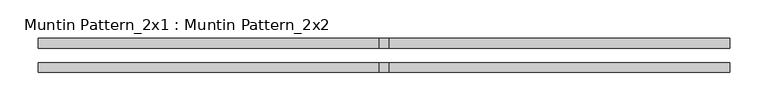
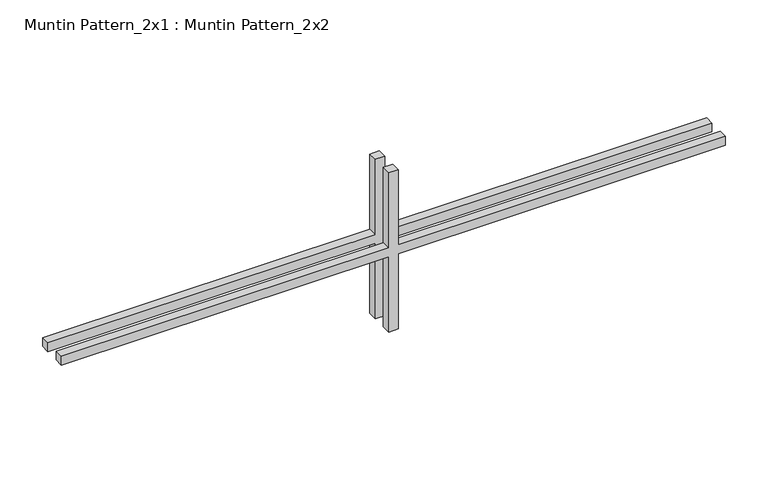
"""IFC4 building model written with IfcOpenShell, lengths in millimetres: proxy geometry, Muntin Pattern_2x1 : Muntin Pattern_2x2."""

from ifc_helpers import new_model, si_unit, frame, origin, place, context, project, spatial, polyline, outline, extrude, source, transform, mapped, element, save


def muntin_pattern_2x1_muntin_pattern_2x2_10bdea61(model_context):
    return source(origin(), model_context, "Body", "SweptSolid", [
        extrude(outline(polyline([(120.65, -6.35), (120.65, -450.85), (107.95, -450.85), (107.95, -6.35), (0.0, -6.35), (0.0, 6.35), (107.95, 6.35), (107.95, 450.85), (120.65, 450.85), (120.65, 6.35), (228.6, 6.35), (228.6, -6.35), (120.65, -6.35)])), frame((0.0, 9.525, 0.0), z_axis=(0.0, 1.0, 0.0), x_axis=(0.0, 0.0, 1.0)), (0.0, 0.0, 1.0), 12.7),
        extrude(outline(polyline([(120.65, -6.35), (120.65, -450.85), (107.95, -450.85), (107.95, -6.35), (0.0, -6.35), (0.0, 6.35), (107.95, 6.35), (107.95, 450.85), (120.65, 450.85), (120.65, 6.35), (228.6, 6.35), (228.6, -6.35), (120.65, -6.35)])), frame((0.0, -22.225, 0.0), z_axis=(0.0, 1.0, 0.0), x_axis=(0.0, 0.0, 1.0)), (0.0, 0.0, 1.0), 12.7),
    ])


if __name__ == "__main__":
    model = new_model("IFC4")
    model_context = context("Model", 3, world=origin())
    ifc_project = project(units=[si_unit("LENGTHUNIT", "METRE", prefix="MILLI")], contexts=[model_context])
    site = spatial("IfcSite", under=ifc_project)
    building = spatial("IfcBuilding", under=site)
    placement = place(None, origin())
    muntin_pattern_2x1_muntin_pattern_2x2_shape = muntin_pattern_2x1_muntin_pattern_2x2_10bdea61(model_context)
    element("IfcBuildingElementProxy", 1, Name="Muntin Pattern_2x1 : Muntin Pattern_2x2", ObjectType="Muntin Pattern_2x1 : Muntin Pattern_2x2", at=placement, inside=building, context=model_context, shape_type="MappedRepresentation", body=[
        mapped(muntin_pattern_2x1_muntin_pattern_2x2_shape, transform((0.0, 0.0, 0.0), x_axis=(1.0, 0.0, 0.0), y_axis=(0.0, 1.0, 0.0), z_axis=(0.0, 0.0, 1.0))),
    ])
    save(model, "model.ifc")
